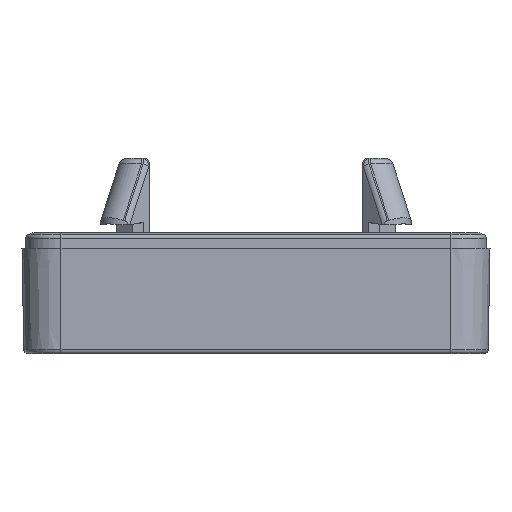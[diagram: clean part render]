
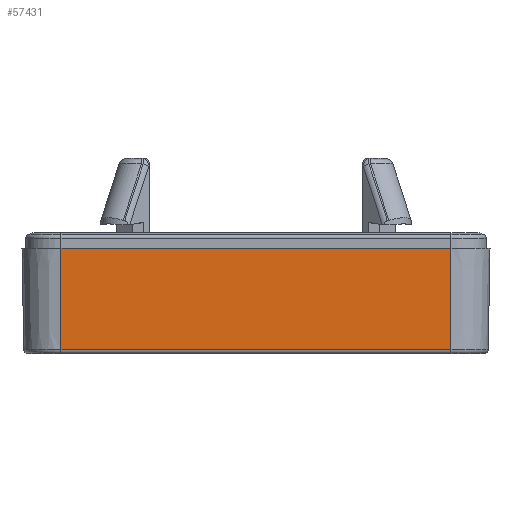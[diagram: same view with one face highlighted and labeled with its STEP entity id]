
A CAD part, left-side view. The second image highlights one B-rep face of the part: STEP entity #57431.
In plain terms, the highlighted planar face has unit normal (-1, 0, -0.018).
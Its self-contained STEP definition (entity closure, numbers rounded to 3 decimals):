
#2780=PLANE('',#62827);
#6113=FACE_OUTER_BOUND('',#9857,.T.);
#9857=EDGE_LOOP('',(#47811,#47812,#47813,#47814));
#16701=LINE('',#107921,#21278);
#16704=LINE('',#107932,#21281);
#16705=LINE('',#107934,#21282);
#16706=LINE('',#107935,#21283);
#21278=VECTOR('',#75553,10.);
#21281=VECTOR('',#75568,10.);
#21282=VECTOR('',#75569,10.);
#21283=VECTOR('',#75570,10.);
#27114=VERTEX_POINT('',#107913);
#27116=VERTEX_POINT('',#107919);
#27118=VERTEX_POINT('',#107931);
#27119=VERTEX_POINT('',#107933);
#34446=EDGE_CURVE('',#27114,#27116,#16701,.T.);
#34451=EDGE_CURVE('',#27118,#27114,#16704,.T.);
#34452=EDGE_CURVE('',#27119,#27118,#16705,.T.);
#34453=EDGE_CURVE('',#27119,#27116,#16706,.T.);
#47811=ORIENTED_EDGE('',*,*,#34446,.F.);
#47812=ORIENTED_EDGE('',*,*,#34451,.F.);
#47813=ORIENTED_EDGE('',*,*,#34452,.F.);
#47814=ORIENTED_EDGE('',*,*,#34453,.T.);
#57431=ADVANCED_FACE('',(#6113),#2780,.F.);
#62827=AXIS2_PLACEMENT_3D('',#107930,#75566,#75567);
#75553=DIRECTION('',(0.,1.,0.));
#75566=DIRECTION('center_axis',(1.,0.,
0.017));
#75567=DIRECTION('ref_axis',(0.017,0.,-1.));
#75568=DIRECTION('',(0.017,0.,-1.));
#75569=DIRECTION('',(0.,-1.,0.));
#75570=DIRECTION('',(0.017,0.,-1.));
#107913=CARTESIAN_POINT('',(-73.773,-25.,-13.009));
#107919=CARTESIAN_POINT('',(-73.773,25.,-13.009));
#107921=CARTESIAN_POINT('',(-73.773,19.916,-13.009));
#107930=CARTESIAN_POINT('Origin',(-74.,25.,0.));
#107931=CARTESIAN_POINT('',(-74.,-25.,0.));
#107932=CARTESIAN_POINT('',(-73.764,-25.,-13.5));
#107933=CARTESIAN_POINT('',(-74.,25.,0.));
#107934=CARTESIAN_POINT('',(-74.,0.,0.));
#107935=CARTESIAN_POINT('',(-73.764,25.,-13.5));
